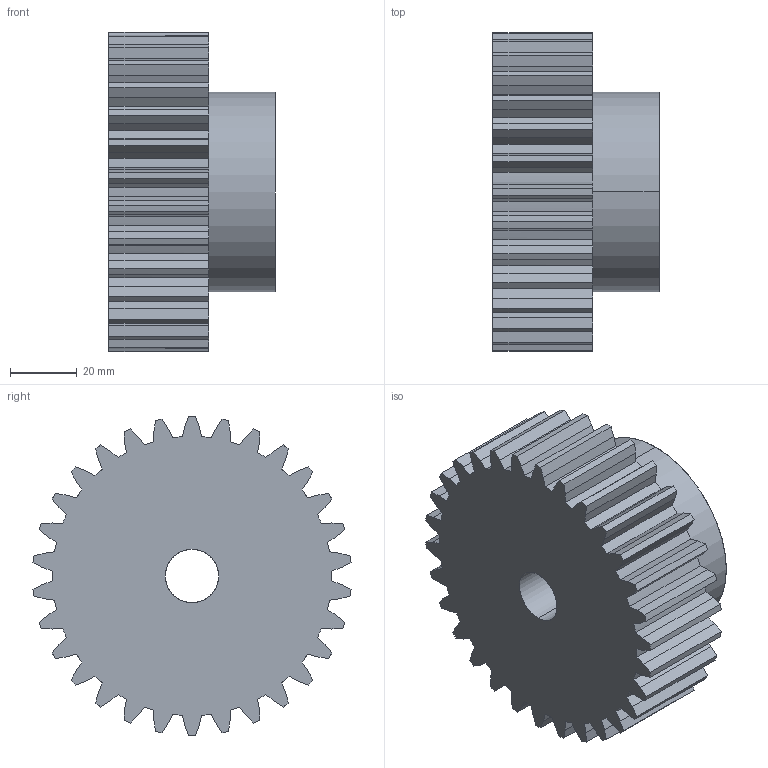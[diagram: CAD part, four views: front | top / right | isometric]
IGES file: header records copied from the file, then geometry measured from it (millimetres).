
Start section: SolidWorks IGES file using analytic representation for surfaces
Global section: file name: C:\Users\Honza\Desktop\Matis (Hotove)\Èelní ozubená kola\PM\MODUL 3\PM 30030.IGS; native system: SolidWorks 2010; preprocessor: SolidWorks 2010; author: Honza; date: 130925.155334; units: millimetre
Bounding box: 50 x 95.66 x 96 mm (x, y, z)
Surface area: 34416.2 mm2 (no closed solid volume)
Topology: 0 solids, 0 shells, 187 faces, 1290 edges, 1290 vertices
Faces by surface type: bspline 123, revolution 64
